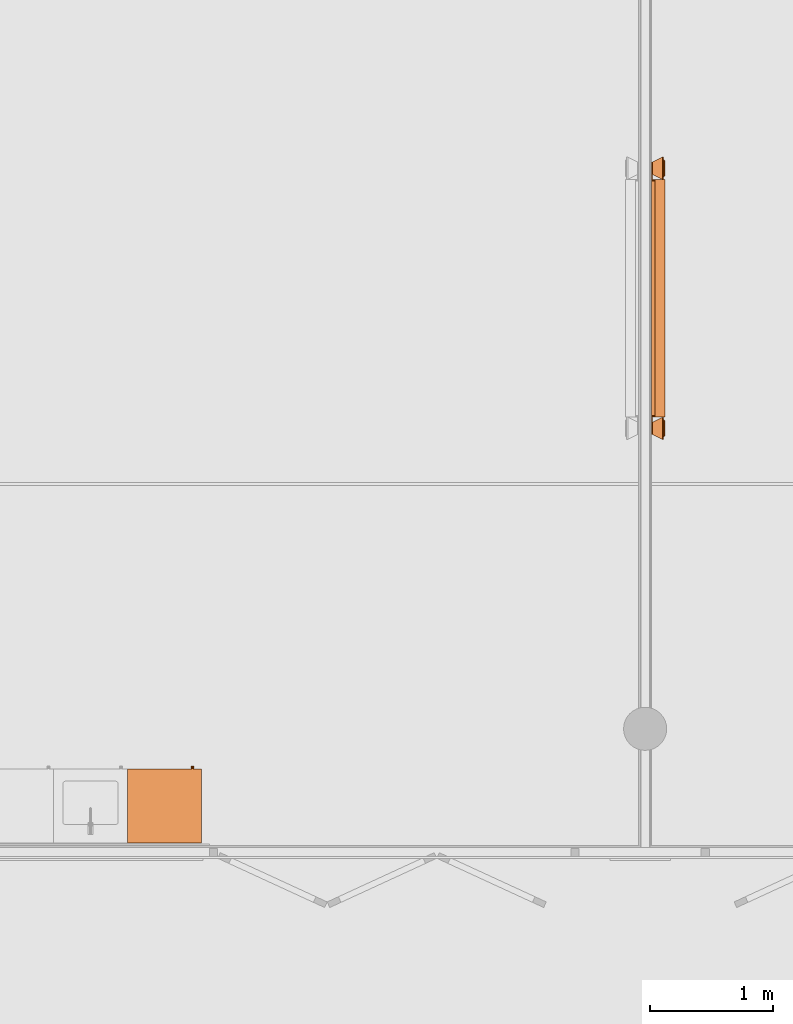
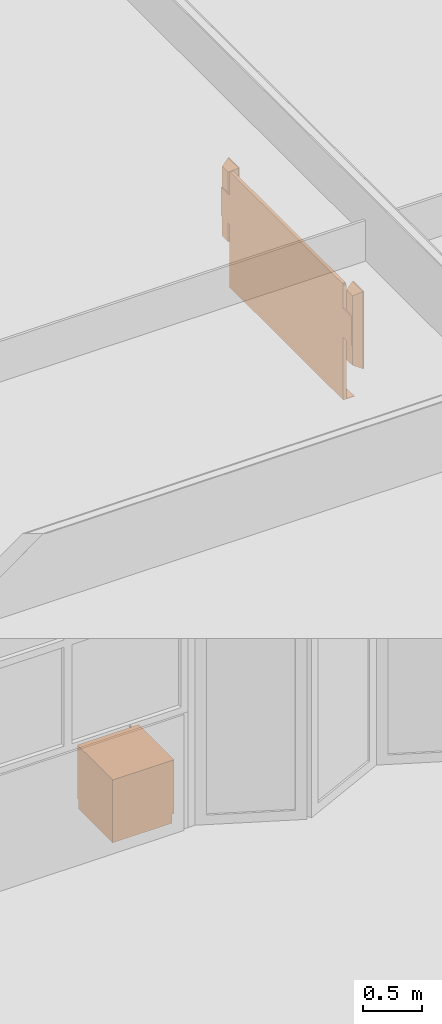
# One storey, part 104 of 167: 2 proxies.
"""IFC2X3 building model written with IfcOpenShell, lengths in millimetres."""

from ifc_helpers import new_model, entity, si_unit, converted_unit, derived_unit, money_unit, direction, frame, origin_with_axes, place, context, subcontext, project, spatial, faceted_brep, source, transform, mapped, type_object, type_shapes, element, save


model = new_model("IFC2X3")

# Units and contexts
model_context = context("Model", 3, precision=0.01, world=origin_with_axes(), true_north=direction((0.0, 1.0)))
plan_context = context("Plan", 3, precision=0.01, world=origin_with_axes(), true_north=direction((0.0, 1.0)))
body_context = subcontext(model_context, "Body", "Model", "MODEL_VIEW")
ifc_project = project(units=[si_unit("LENGTHUNIT", "METRE", prefix="MILLI"), si_unit("AREAUNIT", "SQUARE_METRE"), si_unit("VOLUMEUNIT", "CUBIC_METRE"), converted_unit("PLANEANGLEUNIT", "DEGREE", entity("IfcPlaneAngleMeasure", 0.0174532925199), si_unit("PLANEANGLEUNIT", "RADIAN"), dimensions=[0, 0, 0, 0, 0, 0, 0]), si_unit("SOLIDANGLEUNIT", "STERADIAN"), money_unit("EUR"), converted_unit("TIMEUNIT", "Year", entity("IfcTimeMeasure", 31556926.0), si_unit("TIMEUNIT", "SECOND"), dimensions=[0, 0, 1, 0, 0, 0, 0]), si_unit("MASSUNIT", "GRAM", prefix="KILO"), si_unit("THERMODYNAMICTEMPERATUREUNIT", "DEGREE_CELSIUS"), si_unit("LUMINOUSINTENSITYUNIT", "LUMEN"), si_unit("ENERGYUNIT", "JOULE", prefix="MEGA"), derived_unit("THERMALCONDUCTANCEUNIT", [(si_unit("POWERUNIT", "WATT"), 1), (si_unit("LENGTHUNIT", "METRE"), -1), (si_unit("THERMODYNAMICTEMPERATUREUNIT", "KELVIN"), -1)]), derived_unit("SPECIFICHEATCAPACITYUNIT", [(si_unit("ENERGYUNIT", "JOULE"), 1), (si_unit("MASSUNIT", "GRAM", prefix="KILO"), -1), (si_unit("THERMODYNAMICTEMPERATUREUNIT", "KELVIN"), -1)]), derived_unit("MASSDENSITYUNIT", [(si_unit("MASSUNIT", "GRAM", prefix="KILO"), 1), (si_unit("VOLUMEUNIT", "CUBIC_METRE"), -1)])], contexts=[model_context, plan_context])

# Site, building, storey
site_placement = place(None, origin_with_axes())
site = spatial("IfcSite", under=ifc_project, at=site_placement, Name="Site", CompositionType="ELEMENT")
building_placement = place(site_placement, origin_with_axes())
building = spatial("IfcBuilding", under=site, at=building_placement, Name="Naam gebouw", CompositionType="ELEMENT")
storey_placement = place(building_placement, origin_with_axes())
storey = spatial("IfcBuildingStorey", under=building, at=storey_placement, Name="Begane grond", CompositionType="ELEMENT", Elevation=0.0)

# Proxies
building_element_proxy_type_1 = type_object("IfcBuildingElementProxyType", Name="Kast basis 1D 24", PredefinedType="NOTDEFINED")
shared_shape_1 = source(origin_with_axes(), body_context, "Body", "Brep", [
    faceted_brep([(0.0, 20.0, 0.0), (0.0, 20.0, 90.0), (-580.0, 20.0, 90.0), (-580.0, 20.0, 0.0), (0.0, 600.0, 0.0), (0.0, 600.0, 90.0), (-580.0, 600.0, 90.0), (-580.0, 600.0, 0.0)], [[[0, 1, 2, 3]], [[4, 5, 1, 0]], [[1, 5, 6, 2]], [[3, 2, 6, 7]], [[0, 3, 7, 4]], [[7, 6, 5, 4]]]),
    faceted_brep([(0.0, 20.0, 580.0), (0.0, 20.0, 600.0), (-20.0, 20.0, 600.0), (-20.0, 20.0, 580.0), (0.0, 600.0, 580.0), (0.0, 600.0, 600.0), (-20.0, 600.0, 600.0), (-560.0, 600.0, 600.0), (-580.0, 600.0, 600.0), (-580.0, 20.0, 600.0), (-560.0, 20.0, 600.0), (-560.0, 20.0, 580.0), (-580.0, 20.0, 580.0), (-580.0, 600.0, 580.0), (-560.0, 600.0, 580.0), (-20.0, 600.0, 580.0)], [[[0, 1, 2, 3]], [[4, 5, 1, 0]], [[1, 5, 6, 7, 8, 9, 10, 2]], [[3, 2, 10, 11]], [[0, 3, 11, 12, 13, 14, 15, 4]], [[15, 6, 5, 4]], [[14, 7, 6, 15]], [[13, 8, 7, 14]], [[12, 9, 8, 13]], [[11, 10, 9, 12]]]),
    faceted_brep([(0.0, 20.0, 90.0), (0.0, 20.0, 110.0), (-20.0, 20.0, 110.0), (-20.0, 20.0, 90.0), (0.0, 600.0, 90.0), (0.0, 600.0, 110.0), (-20.0, 600.0, 110.0), (-560.0, 600.0, 110.0), (-580.0, 600.0, 110.0), (-580.0, 20.0, 110.0), (-560.0, 20.0, 110.0), (-560.0, 20.0, 90.0), (-580.0, 20.0, 90.0), (-580.0, 600.0, 90.0), (-560.0, 600.0, 90.0), (-20.0, 600.0, 90.0)], [[[0, 1, 2, 3]], [[4, 5, 1, 0]], [[1, 5, 6, 7, 8, 9, 10, 2]], [[3, 2, 10, 11]], [[0, 3, 11, 12, 13, 14, 15, 4]], [[15, 6, 5, 4]], [[14, 7, 6, 15]], [[13, 8, 7, 14]], [[12, 9, 8, 13]], [[11, 10, 9, 12]]]),
    faceted_brep([(0.0, 20.0, 110.0), (0.0, 20.0, 580.0), (-20.0, 20.0, 580.0), (-20.0, 20.0, 110.0), (0.0, 600.0, 110.0), (0.0, 600.0, 580.0), (-580.0, 600.0, 580.0), (-580.0, 20.0, 580.0), (-560.0, 20.0, 580.0), (-560.0, 580.0, 580.0), (-20.0, 580.0, 580.0), (-20.0, 580.0, 110.0), (-560.0, 580.0, 110.0), (-560.0, 20.0, 110.0), (-580.0, 20.0, 110.0), (-580.0, 600.0, 110.0)], [[[0, 1, 2, 3]], [[4, 5, 1, 0]], [[1, 5, 6, 7, 8, 9, 10, 2]], [[3, 2, 10, 11]], [[0, 3, 11, 12, 13, 14, 15, 4]], [[15, 6, 5, 4]], [[14, 7, 6, 15]], [[13, 8, 7, 14]], [[12, 9, 8, 13]], [[11, 10, 9, 12]]]),
    faceted_brep([(-560.0, 20.0, 325.0), (-560.0, 20.0, 345.0), (-560.0, 580.0, 345.0), (-560.0, 580.0, 325.0), (-20.0, 20.0, 325.0), (-20.0, 20.0, 345.0), (-20.0, 580.0, 345.0), (-20.0, 580.0, 325.0)], [[[0, 1, 2, 3]], [[4, 5, 1, 0]], [[1, 5, 6, 2]], [[3, 2, 6, 7]], [[0, 3, 7, 4]], [[7, 6, 5, 4]]]),
    faceted_brep([(0.0, 0.0, 600.0), (0.0, 0.0, 650.0), (-600.0, 0.0, 650.0), (-600.0, 0.0, 600.0), (0.0, 600.0, 600.0), (0.0, 600.0, 650.0), (-600.0, 600.0, 650.0), (-600.0, 600.0, 600.0)], [[[0, 1, 2, 3]], [[4, 5, 1, 0]], [[1, 5, 6, 2]], [[3, 2, 6, 7]], [[0, 3, 7, 4]], [[7, 6, 5, 4]]]),
    faceted_brep([(-1.5, 20.0, 91.5), (-1.5, 0.0, 91.5), (-578.5, 0.0, 91.5), (-578.5, 20.0, 91.5), (-1.5, 20.0, 598.5), (-1.5, 0.0, 598.5), (-578.5, 0.0, 598.5), (-578.5, 20.0, 598.5)], [[[0, 1, 2, 3]], [[4, 5, 1, 0]], [[1, 5, 6, 2]], [[3, 2, 6, 7]], [[0, 3, 7, 4]], [[7, 6, 5, 4]]]),
    faceted_brep([(-539.58655439, 0.0, 636.907798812), (-540.5, 0.0, 641.5), (-539.58655439, 0.0, 646.092201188), (-536.985281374, 0.0, 649.985281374), (-533.092201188, 0.0, 652.58655439), (-528.5, 0.0, 653.5), (-523.907798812, 0.0, 652.58655439), (-520.014718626, 0.0, 649.985281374), (-517.41344561, 0.0, 646.092201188), (-516.5, 0.0, 641.5), (-517.41344561, 0.0, 636.907798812), (-520.014718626, 0.0, 633.014718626), (-523.907798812, 0.0, 630.41344561), (-528.5, 0.0, 629.5), (-533.092201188, 0.0, 630.41344561), (-536.985281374, 0.0, 633.014718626), (-539.58655439, -25.0, 636.907798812), (-540.5, -25.0, 641.5), (-539.58655439, -25.0, 646.092201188), (-536.985281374, -25.0, 649.985281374), (-533.092201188, -25.0, 652.58655439), (-528.5, -25.0, 653.5), (-523.907798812, -25.0, 652.58655439), (-520.014718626, -25.0, 649.985281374), (-517.41344561, -25.0, 646.092201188), (-516.5, -25.0, 641.5), (-517.41344561, -25.0, 636.907798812), (-520.014718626, -25.0, 633.014718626), (-523.907798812, -25.0, 630.41344561), (-528.5, -25.0, 629.5), (-533.092201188, -25.0, 630.41344561), (-536.985281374, -25.0, 633.014718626)], [[[0, 1, 2, 3, 4, 5, 6, 7, 8, 9, 10, 11, 12, 13, 14, 15]], [[0, 16, 17, 1]], [[1, 17, 18, 2]], [[2, 18, 19, 3]], [[3, 19, 20, 4]], [[4, 20, 21, 5]], [[5, 21, 22, 6]], [[6, 22, 23, 7]], [[7, 23, 24, 8]], [[8, 24, 25, 9]], [[9, 25, 26, 10]], [[10, 26, 27, 11]], [[11, 27, 28, 12]], [[12, 28, 29, 13]], [[13, 29, 30, 14]], [[14, 30, 31, 15]], [[15, 31, 16, 0]], [[16, 31, 30, 29, 28, 27, 26, 25, 24, 23, 22, 21, 20, 19, 18, 17]]]),
    faceted_brep([(-580.0, 21.5, 91.5), (-600.0, 21.5, 91.5), (-600.0, 598.5, 91.5), (-580.0, 598.5, 91.5), (-580.0, 21.5, 598.5), (-600.0, 21.5, 598.5), (-600.0, 598.5, 598.5), (-580.0, 598.5, 598.5)], [[[0, 1, 2, 3]], [[4, 5, 1, 0]], [[1, 5, 6, 2]], [[3, 2, 6, 7]], [[0, 3, 7, 4]], [[7, 6, 5, 4]]]),
])
type_shapes(building_element_proxy_type_1, [shared_shape_1])
proxy_1_placement = place(storey_placement, frame((10200.4324053, 42875.0, 0.0), z_axis=(0.0, 0.0, 1.0), x_axis=(-1.0, 0.0, 0.0)))
element("IfcBuildingElementProxy", 1, at=proxy_1_placement, inside=storey, type_object=building_element_proxy_type_1, Name="__Object-x", context=body_context, shape_type="MappedRepresentation", body=[
    mapped(shared_shape_1, transform((0.0, 0.0, 0.0))),
])
building_element_proxy_type_2 = type_object("IfcBuildingElementProxyType", Name="Digitaal bord 24", PredefinedType="NOTDEFINED")
shared_shape_2 = source(origin_with_axes(), body_context, "Body", "Brep", [
    faceted_brep([(0.0, 0.0, 1000.0), (1930.0, 0.0, 1000.0), (1930.0, -30.0, 1000.0), (0.0, -30.0, 1000.0), (0.0, 0.0, 2185.0), (4.3933982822, 0.0, 2195.60660172), (15.0, 0.0, 2200.0), (1915.0, 0.0, 2200.0), (1925.60660172, 0.0, 2195.60660172), (1930.0, 0.0, 2185.0), (20.0, 0.0, 1025.0), (1910.0, 0.0, 1025.0), (1910.0, 0.0, 2180.0), (20.0, 0.0, 2180.0), (1930.0, -30.0, 2185.0), (1925.60660172, -30.0, 2195.60660172), (1915.0, -30.0, 2200.0), (15.0, -30.0, 2200.0), (4.3933982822, -30.0, 2195.60660172), (0.0, -30.0, 2185.0), (20.0, -30.0, 1025.0), (20.0, -30.0, 2180.0), (1910.0, -30.0, 2180.0), (1910.0, -30.0, 1025.0)], [[[0, 1, 2, 3]], [[0, 4, 5, 6, 7, 8, 9, 1], [10, 11, 12, 13]], [[1, 9, 14, 2]], [[3, 2, 14, 15, 16, 17, 18, 19], [20, 21, 22, 23]], [[4, 0, 3, 19]], [[5, 4, 19, 18]], [[6, 5, 18, 17]], [[7, 6, 17, 16]], [[8, 7, 16, 15]], [[9, 8, 15, 14]], [[11, 10, 20, 23]], [[12, 11, 23, 22]], [[13, 12, 22, 21]], [[10, 13, 21, 20]]]),
    faceted_brep([(20.0, 0.0, 1025.0), (1910.0, 0.0, 1025.0), (1910.0, -29.0, 1025.0), (20.0, -29.0, 1025.0), (20.0, 0.0, 2180.0), (1910.0, 0.0, 2180.0), (1910.0, -29.0, 2180.0), (20.0, -29.0, 2180.0)], [[[0, 1, 2, 3]], [[0, 4, 5, 1]], [[1, 5, 6, 2]], [[3, 2, 6, 7]], [[4, 0, 3, 7]], [[5, 4, 7, 6]]]),
    faceted_brep([(1930.0, -110.0, 1000.0), (0.0, -110.0, 1000.0), (0.0, -30.0, 1000.0), (1930.0, -30.0, 1000.0), (1930.0, -110.0, 1005.0), (0.0, -110.0, 1005.0), (0.0, -30.0, 1005.0), (1930.0, -30.0, 1005.0)], [[[0, 1, 2, 3]], [[1, 0, 4, 5]], [[2, 1, 5, 6]], [[3, 2, 6, 7]], [[0, 3, 7, 4]], [[5, 4, 7, 6]]]),
    faceted_brep([(0.0, -10.0, 1650.0), (-140.0, -10.0, 1650.0), (-140.0, 0.0, 1650.0), (0.0, 0.0, 1650.0), (0.0, -10.0, 1950.0), (-140.0, -10.0, 1950.0), (-140.0, 0.0, 1950.0), (0.0, 0.0, 1950.0)], [[[0, 1, 2, 3]], [[1, 0, 4, 5]], [[2, 1, 5, 6]], [[3, 2, 6, 7]], [[0, 3, 7, 4]], [[5, 4, 7, 6]]]),
    faceted_brep([(0.0, -100.0, 2200.0), (-180.0, -100.0, 2200.0), (-180.0, -100.0, 1400.0), (0.0, -100.0, 1400.0), (2.43782993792e-07, -90.0, 2200.00000039), (-180.00000039, -90.0, 2200.00000039), (-180.00000039, -90.0, 1399.99999964), (2.43782993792e-07, -90.0, 1399.99999964), (-39.9999997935, -9.99999992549, 2160.00000035), (-140.000000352, -9.99999992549, 2160.00000035), (-140.000000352, -9.99999992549, 1439.99999968), (-39.9999997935, -9.99999992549, 1439.99999968)], [[[0, 1, 2, 3]], [[1, 0, 4, 5]], [[2, 1, 5, 6]], [[3, 2, 6, 7]], [[0, 3, 7, 4]], [[5, 4, 8, 9]], [[6, 5, 9, 10]], [[7, 6, 10, 11]], [[4, 7, 11, 8]], [[10, 9, 8, 11]]]),
    faceted_brep([(-157.071067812, -100.0, 1522.92893219), (-160.0, -100.0, 1530.0), (-160.0, -100.0, 2170.0), (-157.071067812, -100.0, 2177.07106781), (-150.0, -100.0, 2180.0), (-30.0, -100.0, 2180.0), (-22.9289321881, -100.0, 2177.07106781), (-20.0, -100.0, 2170.0), (-20.0, -100.0, 1530.0), (-22.9289321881, -100.0, 1522.92893219), (-30.0, -100.0, 1520.0), (-150.0, -100.0, 1520.0), (-156.488467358, -103.826834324, 1523.51153264), (-159.238795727, -103.826834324, 1530.15141333), (-159.238795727, -103.826834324, 2169.84858696), (-156.488467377, -103.826834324, 2176.48846672), (-149.848586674, -103.826834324, 2179.2387951), (-30.1514125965, -103.826834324, 2179.2387951), (-23.5115328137, -103.826834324, 2176.48846674), (-20.761204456, -103.826834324, 2169.84858696), (-20.761204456, -103.826834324, 1530.15141333), (-23.5115328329, -103.826834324, 1523.51153262), (-30.1514125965, -103.826834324, 1520.76120427), (-149.848586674, -103.826834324, 1520.76120427), (-152.346331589, -109.238795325, 1527.65366841), (-153.826834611, -109.238795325, 1531.22791923), (-153.826834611, -109.238795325, 2168.77208092), (-152.346331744, -109.238795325, 2172.34633089), (-148.772080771, -109.238795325, 2173.82683398), (-31.2279186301, -109.238795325, 2173.82683398), (-27.6536685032, -109.238795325, 2172.34633105), (-26.1731655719, -109.238795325, 2168.77208092), (-26.1731655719, -109.238795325, 1531.22791923), (-27.6536686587, -109.238795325, 1527.65366826), (-31.2279186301, -109.238795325, 1526.17316539), (-148.772080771, -109.238795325, 1526.17316539), (-149.41740042, -109.999999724, 1530.58259958), (-150.000001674, -109.999999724, 1531.98912356), (-150.000001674, -109.999999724, 2168.0108765), (-149.417400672, -109.999999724, 2169.41739969), (-148.010876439, -109.999999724, 2170.00000104), (-31.9891230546, -109.999999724, 2170.00000104), (-30.5825996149, -109.999999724, 2169.41739994), (-29.9999985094, -109.999999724, 2168.0108765), (-29.9999985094, -109.999999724, 1531.98912356), (-30.5825998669, -109.999999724, 1530.58259933), (-31.9891230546, -109.999999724, 1529.99999833), (-148.010876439, -109.999999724, 1529.99999833)], [[[0, 1, 2, 3, 4, 5, 6, 7, 8, 9, 10, 11]], [[1, 0, 12, 13]], [[2, 1, 13, 14]], [[3, 2, 14, 15]], [[4, 3, 15, 16]], [[5, 4, 16, 17]], [[6, 5, 17, 18]], [[7, 6, 18, 19]], [[8, 7, 19, 20]], [[9, 8, 20, 21]], [[10, 9, 21, 22]], [[11, 10, 22, 23]], [[0, 11, 23, 12]], [[13, 12, 24, 25]], [[14, 13, 25, 26]], [[15, 14, 26, 27]], [[16, 15, 27, 28]], [[17, 16, 28, 29]], [[18, 17, 29, 30]], [[19, 18, 30, 31]], [[20, 19, 31, 32]], [[21, 20, 32, 33]], [[22, 21, 33, 34]], [[23, 22, 34, 35]], [[12, 23, 35, 24]], [[25, 24, 36, 37]], [[26, 25, 37, 38]], [[27, 26, 38, 39]], [[28, 27, 39, 40]], [[29, 28, 40, 41]], [[30, 29, 41, 42]], [[31, 30, 42, 43]], [[32, 31, 43, 44]], [[33, 32, 44, 45]], [[34, 33, 45, 46]], [[35, 34, 46, 47]], [[24, 35, 47, 36]], [[39, 38, 37, 36, 47, 46, 45, 44, 43, 42, 41, 40]]]),
    faceted_brep([(-40.0, -100.0, 1400.0), (-140.0, -100.0, 1400.0), (-140.0, -100.0, 1450.0), (-125.355339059, -100.0, 1485.35533906), (-90.0, -100.0, 1500.0), (-54.6446609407, -100.0, 1485.35533906), (-40.0, -100.0, 1450.0), (-40.380602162, -101.913417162, 1400.38060194), (-139.619398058, -101.913417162, 1400.38060194), (-139.619398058, -101.913417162, 1449.92429384), (-125.064038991, -101.913417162, 1485.06403877), (-89.9999996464, -101.913417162, 1499.58803917), (-54.9359612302, -101.913417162, 1485.06403877), (-40.380602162, -101.913417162, 1449.92429384), (-43.0865822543, -104.619397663, 1403.08658203), (-136.913417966, -104.619397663, 1403.08658203), (-136.913417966, -104.619397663, 1449.38604093), (-122.9929715, -104.619397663, 1482.99297126), (-89.99999966, -104.619397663, 1496.65910743), (-57.0070287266, -104.619397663, 1482.99297127), (-43.0865822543, -104.619397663, 1449.38604093), (-45.0000010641, -105.000000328, 1405.00000084), (-134.999999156, -105.000000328, 1405.00000084), (-134.999999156, -105.000000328, 1449.00543826), (-121.528504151, -105.000000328, 1481.52850389), (-89.9999996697, -105.000000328, 1494.58803784), (-58.4714960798, -105.000000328, 1481.52850392), (-45.0000010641, -105.000000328, 1449.00543826)], [[[0, 1, 2, 3, 4, 5, 6]], [[1, 0, 7, 8]], [[2, 1, 8, 9]], [[3, 2, 9, 10]], [[4, 3, 10, 11]], [[5, 4, 11, 12]], [[6, 5, 12, 13]], [[0, 6, 13, 7]], [[8, 7, 14, 15]], [[9, 8, 15, 16]], [[10, 9, 16, 17]], [[11, 10, 17, 18]], [[12, 11, 18, 19]], [[13, 12, 19, 20]], [[7, 13, 20, 14]], [[15, 14, 21, 22]], [[16, 15, 22, 23]], [[17, 16, 23, 24]], [[18, 17, 24, 25]], [[19, 18, 25, 26]], [[20, 19, 26, 27]], [[14, 20, 27, 21]], [[24, 23, 22, 21, 27, 26, 25]]]),
    faceted_brep([(1930.0, -10.0, 1650.0), (1930.0, 0.0, 1650.0), (2070.0, 0.0, 1650.0), (2070.0, -10.0, 1650.0), (1930.0, -10.0, 1950.0), (1930.0, 0.0, 1950.0), (2070.0, 0.0, 1950.0), (2070.0, -10.0, 1950.0)], [[[0, 1, 2, 3]], [[0, 4, 5, 1]], [[1, 5, 6, 2]], [[2, 6, 7, 3]], [[3, 7, 4, 0]], [[7, 6, 5, 4]]]),
    faceted_brep([(1930.0, -100.0, 2200.0), (1930.0, -100.0, 1400.0), (2110.0, -100.0, 1400.0), (2110.0, -100.0, 2200.0), (1929.99999976, -90.0, 2200.00000039), (1929.99999976, -90.0, 1399.99999964), (2110.00000039, -90.0, 1399.99999964), (2110.00000039, -90.0, 2200.00000039), (1969.99999979, -9.99999992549, 2160.00000035), (1969.99999979, -9.99999992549, 1439.99999968), (2070.00000035, -9.99999992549, 1439.99999968), (2070.00000035, -9.99999992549, 2160.00000035)], [[[0, 1, 2, 3]], [[0, 4, 5, 1]], [[1, 5, 6, 2]], [[2, 6, 7, 3]], [[3, 7, 4, 0]], [[4, 8, 9, 5]], [[5, 9, 10, 6]], [[6, 10, 11, 7]], [[7, 11, 8, 4]], [[10, 9, 8, 11]]]),
    faceted_brep([(2087.07106781, -100.0, 1522.92893219), (2080.0, -100.0, 1520.0), (1960.0, -100.0, 1520.0), (1952.92893219, -100.0, 1522.92893219), (1950.0, -100.0, 1530.0), (1950.0, -100.0, 2170.0), (1952.92893219, -100.0, 2177.07106781), (1960.0, -100.0, 2180.0), (2080.0, -100.0, 2180.0), (2087.07106781, -100.0, 2177.07106781), (2090.0, -100.0, 2170.0), (2090.0, -100.0, 1530.0), (2086.48846736, -103.826834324, 1523.51153264), (2079.84858667, -103.826834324, 1520.76120427), (1960.1514126, -103.826834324, 1520.76120427), (1953.51153283, -103.826834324, 1523.51153262), (1950.76120446, -103.826834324, 1530.15141333), (1950.76120446, -103.826834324, 2169.84858696), (1953.51153281, -103.826834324, 2176.48846674), (1960.1514126, -103.826834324, 2179.2387951), (2079.84858667, -103.826834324, 2179.2387951), (2086.48846738, -103.826834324, 2176.48846672), (2089.23879573, -103.826834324, 2169.84858696), (2089.23879573, -103.826834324, 1530.15141333), (2082.34633159, -109.238795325, 1527.65366841), (2078.77208077, -109.238795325, 1526.17316539), (1961.22791863, -109.238795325, 1526.17316539), (1957.65366866, -109.238795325, 1527.65366826), (1956.17316557, -109.238795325, 1531.22791923), (1956.17316557, -109.238795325, 2168.77208092), (1957.6536685, -109.238795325, 2172.34633105), (1961.22791863, -109.238795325, 2173.82683398), (2078.77208077, -109.238795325, 2173.82683398), (2082.34633174, -109.238795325, 2172.34633089), (2083.82683461, -109.238795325, 2168.77208092), (2083.82683461, -109.238795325, 1531.22791923), (2079.41740042, -109.999999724, 1530.58259958), (2078.01087644, -109.999999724, 1529.99999833), (1961.98912305, -109.999999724, 1529.99999833), (1960.58259987, -109.999999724, 1530.58259933), (1959.99999851, -109.999999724, 1531.98912356), (1959.99999851, -109.999999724, 2168.0108765), (1960.58259961, -109.999999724, 2169.41739994), (1961.98912305, -109.999999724, 2170.00000104), (2078.01087644, -109.999999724, 2170.00000104), (2079.41740067, -109.999999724, 2169.41739969), (2080.00000167, -109.999999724, 2168.0108765), (2080.00000167, -109.999999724, 1531.98912356)], [[[0, 1, 2, 3, 4, 5, 6, 7, 8, 9, 10, 11]], [[0, 12, 13, 1]], [[1, 13, 14, 2]], [[2, 14, 15, 3]], [[3, 15, 16, 4]], [[4, 16, 17, 5]], [[5, 17, 18, 6]], [[6, 18, 19, 7]], [[7, 19, 20, 8]], [[8, 20, 21, 9]], [[9, 21, 22, 10]], [[10, 22, 23, 11]], [[11, 23, 12, 0]], [[12, 24, 25, 13]], [[13, 25, 26, 14]], [[14, 26, 27, 15]], [[15, 27, 28, 16]], [[16, 28, 29, 17]], [[17, 29, 30, 18]], [[18, 30, 31, 19]], [[19, 31, 32, 20]], [[20, 32, 33, 21]], [[21, 33, 34, 22]], [[22, 34, 35, 23]], [[23, 35, 24, 12]], [[24, 36, 37, 25]], [[25, 37, 38, 26]], [[26, 38, 39, 27]], [[27, 39, 40, 28]], [[28, 40, 41, 29]], [[29, 41, 42, 30]], [[30, 42, 43, 31]], [[31, 43, 44, 32]], [[32, 44, 45, 33]], [[33, 45, 46, 34]], [[34, 46, 47, 35]], [[35, 47, 36, 24]], [[45, 44, 43, 42, 41, 40, 39, 38, 37, 36, 47, 46]]]),
    faceted_brep([(1970.0, -100.0, 1400.0), (1970.0, -100.0, 1450.0), (1984.64466094, -100.0, 1485.35533906), (2020.0, -100.0, 1500.0), (2055.35533906, -100.0, 1485.35533906), (2070.0, -100.0, 1450.0), (2070.0, -100.0, 1400.0), (1970.38060216, -101.913417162, 1400.38060194), (1970.38060216, -101.913417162, 1449.92429384), (1984.93596123, -101.913417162, 1485.06403877), (2019.99999965, -101.913417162, 1499.58803917), (2055.06403899, -101.913417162, 1485.06403877), (2069.61939806, -101.913417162, 1449.92429384), (2069.61939806, -101.913417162, 1400.38060194), (1973.08658225, -104.619397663, 1403.08658203), (1973.08658225, -104.619397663, 1449.38604093), (1987.00702873, -104.619397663, 1482.99297127), (2019.99999966, -104.619397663, 1496.65910743), (2052.9929715, -104.619397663, 1482.99297126), (2066.91341797, -104.619397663, 1449.38604093), (2066.91341797, -104.619397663, 1403.08658203), (1975.00000106, -105.000000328, 1405.00000084), (1975.00000106, -105.000000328, 1449.00543826), (1988.47149608, -105.000000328, 1481.52850392), (2019.99999967, -105.000000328, 1494.58803784), (2051.52850415, -105.000000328, 1481.52850389), (2064.99999916, -105.000000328, 1449.00543826), (2064.99999916, -105.000000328, 1405.00000084)], [[[0, 1, 2, 3, 4, 5, 6]], [[0, 7, 8, 1]], [[1, 8, 9, 2]], [[2, 9, 10, 3]], [[3, 10, 11, 4]], [[4, 11, 12, 5]], [[5, 12, 13, 6]], [[6, 13, 7, 0]], [[7, 14, 15, 8]], [[8, 15, 16, 9]], [[9, 16, 17, 10]], [[10, 17, 18, 11]], [[11, 18, 19, 12]], [[12, 19, 20, 13]], [[13, 20, 14, 7]], [[14, 21, 22, 15]], [[15, 22, 23, 16]], [[16, 23, 24, 17]], [[17, 24, 25, 18]], [[18, 25, 26, 19]], [[19, 26, 27, 20]], [[20, 27, 21, 14]], [[25, 24, 23, 22, 21, 27, 26]]]),
])
type_shapes(building_element_proxy_type_2, [shared_shape_2])
proxy_2_placement = place(storey_placement, frame((14450.0, 45728.0, 0.0), z_axis=(0.0, 0.0, 1.0), x_axis=(0.0, 1.0, 0.0)))
element("IfcBuildingElementProxy", 2, at=proxy_2_placement, inside=storey, type_object=building_element_proxy_type_2, Name="__object-x", context=body_context, shape_type="MappedRepresentation", body=[
    mapped(shared_shape_2, transform((0.0, 0.0, 0.0))),
])

save(model, "model.ifc")
